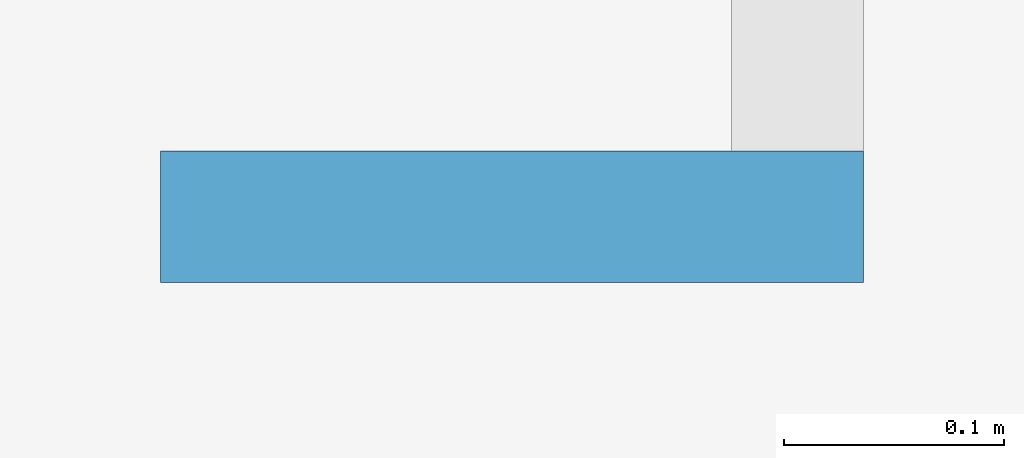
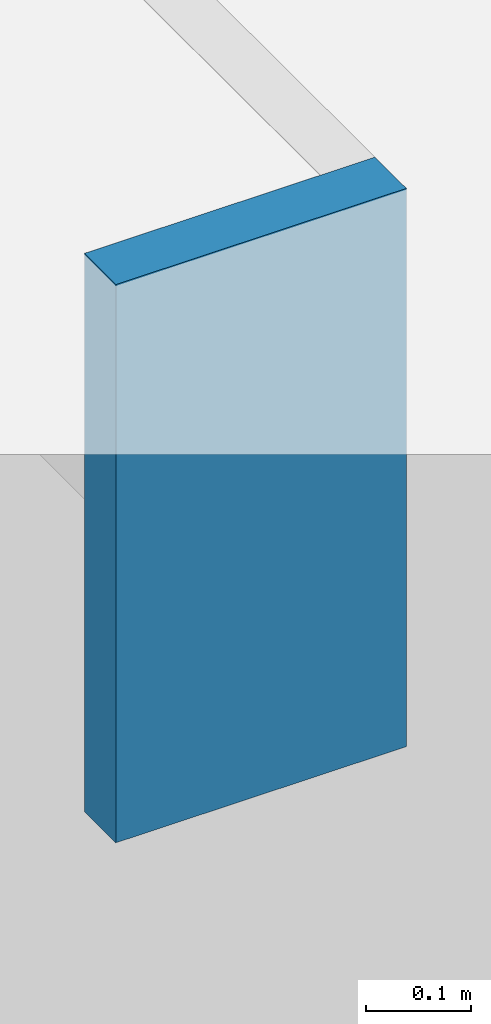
# One storey, part 6 of 10: 1 wall.
"""IFC2X3 building model written with IfcOpenShell, lengths in millimetres."""

from ifc_helpers import new_model, entity, si_unit, converted_unit, frame, frame_2d, origin, origin_with_axes, place, context, subcontext, project, spatial, rectangle, extrude, material, layer, layer_set, layer_usage, element, save


model = new_model("IFC2X3")

# Units and contexts
model_context = context("Model", 3, precision=1e-05, world=origin())
body_context = subcontext(model_context, "Body", "Model", "MODEL_VIEW")
ifc_project = project(units=[si_unit("LENGTHUNIT", "METRE", prefix="MILLI"), converted_unit("PLANEANGLEUNIT", "DEGREE", entity("IfcPlaneAngleMeasure", 0.0174532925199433), si_unit("PLANEANGLEUNIT", "RADIAN"), dimensions=[0, 0, 0, 0, 0, 0, 0]), si_unit("AREAUNIT", "SQUARE_METRE"), si_unit("VOLUMEUNIT", "CUBIC_METRE")], contexts=[model_context])

# Building, storey
building_placement = place(None, origin())
building = spatial("IfcBuilding", under=ifc_project, at=building_placement, Name="Gebäude", CompositionType="ELEMENT")
storey_placement = place(building_placement, frame((0.0, 0.0, -3205.0), z_axis=(0.0, 0.0, 1.0), x_axis=(1.0, 0.0, 0.0)))
storey = spatial("IfcBuildingStorey", under=building, at=storey_placement, Name="KG.- Grundriss", CompositionType="ELEMENT", Elevation=-3205.0)

# Wall
ifc_material = material(Name="<Unnamed Material>")
ifc_layer = layer(ifc_material, 60.0)
ifc_layer_set = layer_set([ifc_layer])
ifc_layer_usage = layer_usage(ifc_layer_set, "AXIS2", "POSITIVE", 0.0)
wall_placement = place(storey_placement, frame((270692.7052904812, 89845.06618296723, 5055.0), z_axis=(0.0, 0.0, 1.0), x_axis=(-1.0, 0.0, 0.0)))
element("IfcWallStandardCase", 1, at=wall_placement, inside=storey, material=ifc_layer_usage, Name="<Unnamed Element>", context=body_context, shape_type="SweptSolid", body=[
    extrude(rectangle(XDim=319.9999999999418, YDim=60.0, at=frame_2d((159.9999999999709, 30.0), x_axis=(1.0, 0.0))), origin_with_axes(), (0.0, 0.0, 1.0), 650.0),
])

save(model, "model.ifc")
